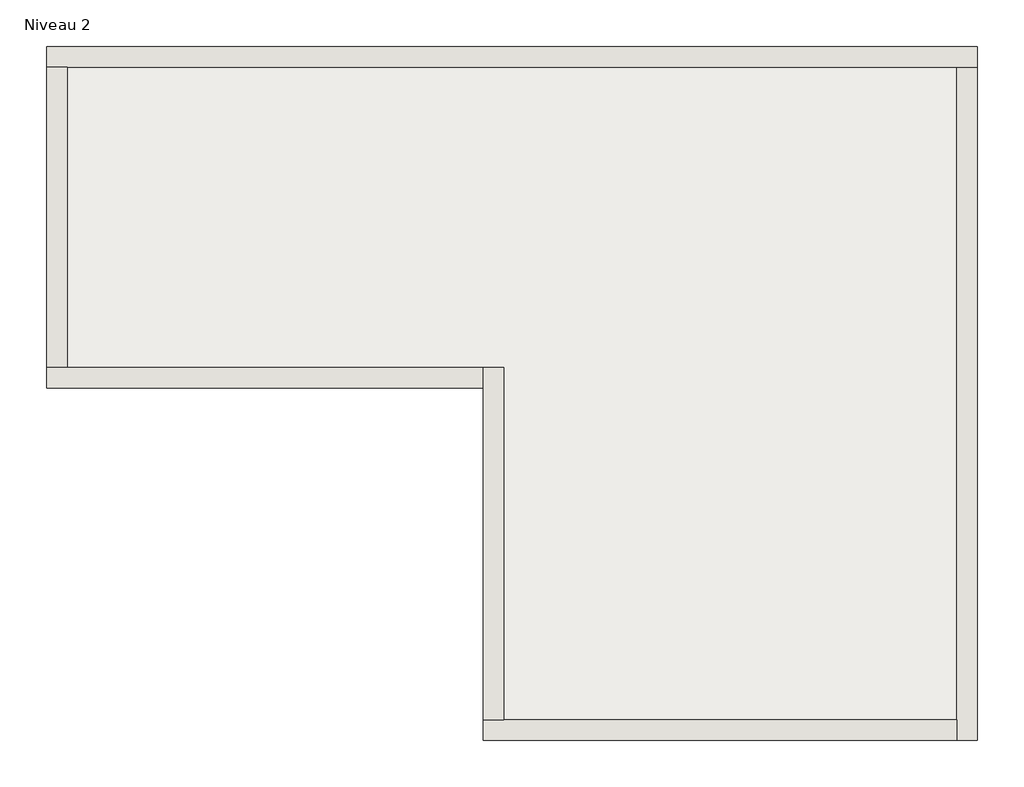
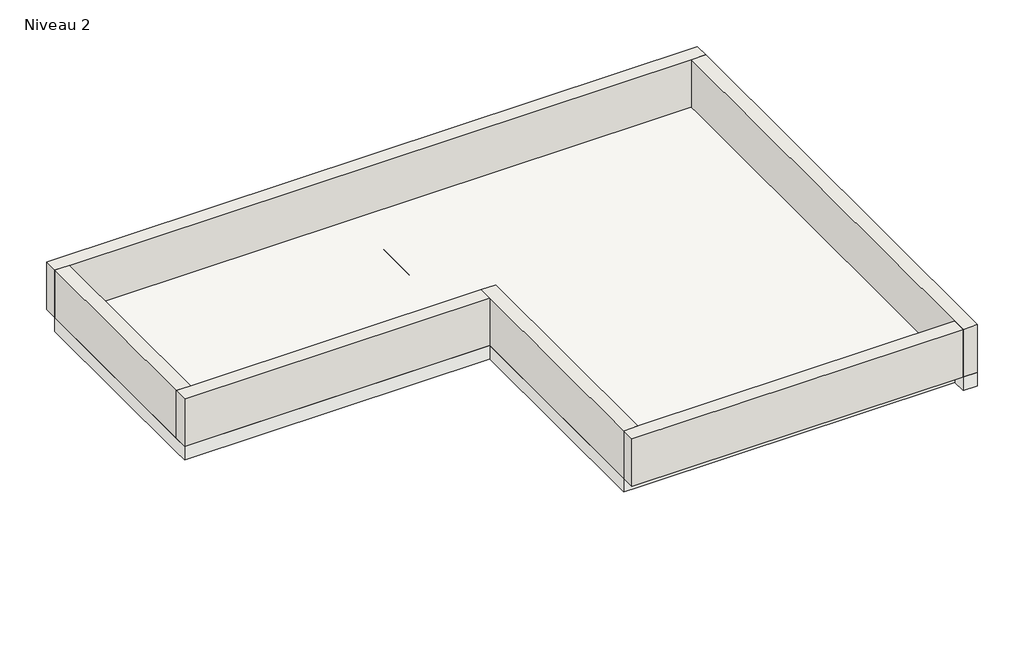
# One storey: 6 walls, 1 beam, 1 slab.
"""IFC4 building model written with IfcOpenShell, lengths in millimetres."""

from ifc_helpers import new_model, si_unit, frame, origin, place, context, project, spatial, polyline, outline, extrude, faceted_brep, element, save

model = new_model("IFC4")

# Units and contexts
model_context = context("Model", 3, world=origin())
ifc_project = project(units=[si_unit("LENGTHUNIT", "METRE", prefix="MILLI")], contexts=[model_context])

# Site, building, storey
site = spatial("IfcSite", under=ifc_project)
building = spatial("IfcBuilding", under=site)
storey = spatial("IfcBuildingStorey", under=building, Name="Niveau 2", Elevation=6000.0)

# Beam
placement = place(None, origin())
element("IfcBeam", 1, ObjectType="LMO Poutres rectangulaires : LMO Poutres rectangulaires", at=placement, inside=storey, context=model_context, shape_type="SweptSolid", body=[
    extrude(outline(polyline([(-4605.2732558, -5545.2827088), (-4305.2732558, -5545.2827088), (-4305.2732558, -8465.2827088), (-4605.2732558, -8465.2827088), (-4605.2732558, -5545.2827088)])), frame((0.0, 0.0, 5800.0), z_axis=(0.0, 0.0, 1.0), x_axis=(1.0, 0.0, 0.0)), (0.0, 0.0, 1.0), 200.0),
])

# Slab
element("IfcSlab", 2, ObjectType="LMO dalle BA 200", at=placement, inside=storey, context=model_context, shape_type="Brep", body=[
    faceted_brep([(-4505.2732558, -8665.2827088, 5800.0), (-8745.2732558, -8665.2827088, 5800.0), (-8745.2732558, -8465.2827088, 5800.0), (-8745.2732558, -5545.2827088, 5800.0), (-8545.2732558, -5545.2827088, 5800.0), (94.7267442, -5545.2827088, 5800.0), (294.7267442, -5545.2827088, 5800.0), (294.7267442, -12085.2827088, 5800.0), (94.7267442, -12085.2827088, 5800.0), (94.7267442, -11885.2827088, 5800.0), (-1305.2732558, -11885.2827088, 5800.0), (-2905.2732558, -11885.2827088, 5800.0), (-4305.2732558, -11885.2827088, 5800.0), (-4505.2732558, -11885.2827088, 5800.0), (-8745.2732558, -8665.2827088, 6000.0), (-4505.2732558, -8665.2827088, 6000.0), (-4505.2732558, -11885.2827088, 6000.0), (-4305.2732558, -11885.2827088, 6000.0), (94.7267442, -11885.2827088, 6000.0), (94.7267442, -12085.2827088, 6000.0), (294.7267442, -12085.2827088, 6000.0), (294.7267442, -5545.2827088, 6000.0), (94.7267442, -5545.2827088, 6000.0), (-8545.2732558, -5545.2827088, 6000.0), (-8745.2732558, -5545.2827088, 6000.0), (-8745.2732558, -8465.2827088, 6000.0)], [[[0, 1, 2, 3, 4, 5, 6, 7, 8, 9, 10, 11, 12, 13]], [[14, 15, 16, 17, 18, 19, 20, 21, 22, 23, 24, 25]], [[20, 7, 6, 21]], [[7, 20, 19, 8]], [[15, 0, 13, 16]], [[1, 0, 15, 14]], [[1, 14, 25, 24, 3, 2]], [[6, 5, 4, 3, 24, 23, 22, 21]], [[9, 18, 17, 16, 13, 12, 11, 10]], [[18, 9, 8, 19]]]),
])

# Walls
element("IfcWall", 3, ObjectType="Générique - 200 mm", at=placement, inside=storey, context=model_context, shape_type="Brep", body=[
    faceted_brep([(-8745.2732558, -5545.2827088, 6000.0), (-8545.2732558, -5545.2827088, 6000.0), (94.7267442, -5545.2827088, 6000.0), (294.7267442, -5545.2827088, 6000.0), (294.7267442, -5545.2827088, 6700.0), (94.7267442, -5545.2827088, 6700.0), (-8545.2732558, -5545.2827088, 6700.0), (-8745.2732558, -5545.2827088, 6700.0), (-8745.2732558, -5345.2827088, 6000.0), (-8745.2732558, -5345.2827088, 6700.0), (294.7267442, -5345.2827088, 6700.0), (294.7267442, -5345.2827088, 6000.0)], [[[0, 1, 2, 3, 4, 5, 6, 7]], [[8, 9, 10, 11]], [[3, 2, 1, 0, 8, 11]], [[7, 6, 5, 4, 10, 9]], [[4, 3, 11, 10]], [[0, 7, 9, 8]]]),
])
element("IfcWall", 4, ObjectType="Générique - 200 mm", at=placement, inside=storey, context=model_context, shape_type="Brep", body=[
    faceted_brep([(94.7267442, -5545.2827088, 6000.0), (94.7267442, -11885.2827088, 6000.0), (94.7267442, -12085.2827088, 6000.0), (94.7267442, -12085.2827088, 6700.0), (94.7267442, -11885.2827088, 6700.0), (94.7267442, -5545.2827088, 6700.0), (294.7267442, -5545.2827088, 6000.0), (294.7267442, -5545.2827088, 6700.0), (294.7267442, -12085.2827088, 6700.0), (294.7267442, -12085.2827088, 6000.0)], [[[0, 1, 2, 3, 4, 5]], [[6, 7, 8, 9]], [[2, 1, 0, 6, 9]], [[5, 4, 3, 8, 7]], [[0, 5, 7, 6]], [[3, 2, 9, 8]]]),
])
element("IfcWall", 5, ObjectType="Générique - 200 mm", at=placement, inside=storey, context=model_context, shape_type="Brep", body=[
    faceted_brep([(94.7267442, -11885.2827088, 6000.0), (-4305.2732558, -11885.2827088, 6000.0), (-4505.2732558, -11885.2827088, 6000.0), (-4505.2732558, -11885.2827088, 6700.0), (-4305.2732558, -11885.2827088, 6700.0), (94.7267442, -11885.2827088, 6700.0), (94.7267442, -12085.2827088, 6000.0), (94.7267442, -12085.2827088, 6700.0), (-4505.2732558, -12085.2827088, 6700.0), (-4505.2732558, -12085.2827088, 6000.0)], [[[0, 1, 2, 3, 4, 5]], [[6, 7, 8, 9]], [[2, 1, 0, 6, 9]], [[5, 4, 3, 8, 7]], [[0, 5, 7, 6]], [[3, 2, 9, 8]]]),
])
element("IfcWall", 6, ObjectType="Générique - 200 mm", at=placement, inside=storey, context=model_context, shape_type="Brep", body=[
    faceted_brep([(-4305.2732558, -11885.2827088, 6000.0), (-4305.2732558, -8465.2827088, 6000.0), (-4305.2732558, -8465.2827088, 6700.0), (-4305.2732558, -11885.2827088, 6700.0), (-4505.2732558, -11885.2827088, 6000.0), (-4505.2732558, -11885.2827088, 6700.0), (-4505.2732558, -8665.2827088, 6700.0), (-4505.2732558, -8465.2827088, 6700.0), (-4505.2732558, -8465.2827088, 6000.0), (-4505.2732558, -8665.2827088, 6000.0)], [[[0, 1, 2, 3]], [[4, 5, 6, 7, 8, 9]], [[1, 0, 4, 9, 8]], [[3, 2, 7, 6, 5]], [[0, 3, 5, 4]], [[2, 1, 8, 7]]]),
])
element("IfcWall", 7, ObjectType="Générique - 200 mm", at=placement, inside=storey, context=model_context, shape_type="Brep", body=[
    faceted_brep([(-4505.2732558, -8465.2827088, 6000.0), (-8545.2732558, -8465.2827088, 6000.0), (-8745.2732558, -8465.2827088, 6000.0), (-8745.2732558, -8465.2827088, 6700.0), (-8545.2732558, -8465.2827088, 6700.0), (-4505.2732558, -8465.2827088, 6700.0), (-4505.2732558, -8665.2827088, 6000.0), (-4505.2732558, -8665.2827088, 6700.0), (-8745.2732558, -8665.2827088, 6700.0), (-8745.2732558, -8665.2827088, 6000.0)], [[[0, 1, 2, 3, 4, 5]], [[6, 7, 8, 9]], [[2, 1, 0, 6, 9]], [[5, 4, 3, 8, 7]], [[0, 5, 7, 6]], [[3, 2, 9, 8]]]),
])
element("IfcWall", 8, ObjectType="Générique - 200 mm", at=placement, inside=storey, context=model_context, shape_type="SweptSolid", body=[
    extrude(outline(polyline([(-8545.2732558, -5545.2827088), (-8545.2732558, -8465.2827088), (-8745.2732558, -8465.2827088), (-8745.2732558, -5545.2827088), (-8545.2732558, -5545.2827088)])), frame((0.0, 0.0, 6000.0), z_axis=(0.0, 0.0, 1.0), x_axis=(1.0, 0.0, 0.0)), (0.0, 0.0, 1.0), 700.0),
])

save(model, "model.ifc")
